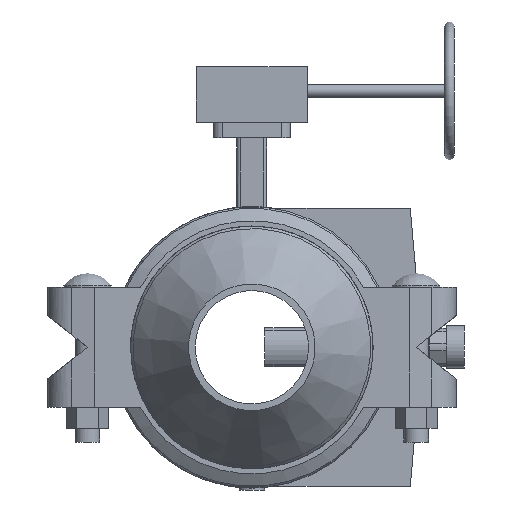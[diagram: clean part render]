
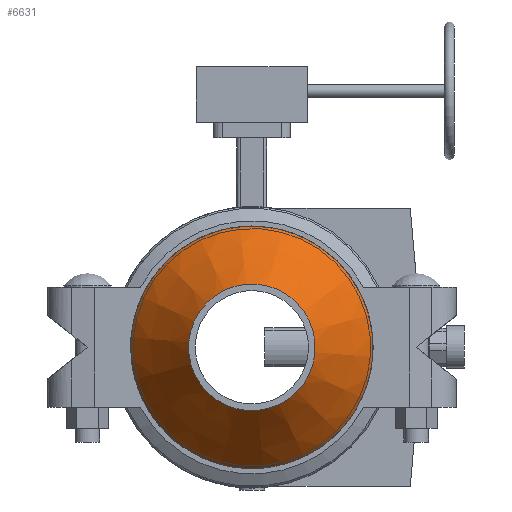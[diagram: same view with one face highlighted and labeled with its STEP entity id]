
A CAD part, front view. The second image highlights one B-rep face of the part: STEP entity #6631.
In plain terms, the highlighted conical face has half-angle 36.87 degrees and reference radius 83.344 mm.
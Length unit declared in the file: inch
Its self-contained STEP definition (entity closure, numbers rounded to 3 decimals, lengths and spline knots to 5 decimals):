
#168=CONICAL_SURFACE('',#7197,3.28125,0.644);
#183=LINE('',#10065,#674);
#674=VECTOR('',#8013,3.28125);
#1355=FACE_OUTER_BOUND('',#1722,.T.);
#1722=EDGE_LOOP('',(#4155,#4156,#4157,#4158,#4159,#4160));
#2158=CIRCLE('',#7195,4.3125);
#2159=CIRCLE('',#7196,4.3125);
#2160=CIRCLE('',#7198,2.25);
#2161=CIRCLE('',#7199,2.25);
#2538=VERTEX_POINT('',#10055);
#2539=VERTEX_POINT('',#10056);
#2540=VERTEX_POINT('',#10061);
#2541=VERTEX_POINT('',#10062);
#3184=EDGE_CURVE('',#2538,#2539,#2158,.T.);
#3185=EDGE_CURVE('',#2539,#2538,#2159,.T.);
#3187=EDGE_CURVE('',#2540,#2541,#2160,.T.);
#3188=EDGE_CURVE('',#2541,#2540,#2161,.T.);
#3189=EDGE_CURVE('',#2541,#2539,#183,.T.);
#4155=ORIENTED_EDGE('',*,*,#3187,.F.);
#4156=ORIENTED_EDGE('',*,*,#3188,.F.);
#4157=ORIENTED_EDGE('',*,*,#3189,.T.);
#4158=ORIENTED_EDGE('',*,*,#3185,.T.);
#4159=ORIENTED_EDGE('',*,*,#3184,.T.);
#4160=ORIENTED_EDGE('',*,*,#3189,.F.);
#6631=ADVANCED_FACE('',(#1355),#168,.T.);
#7195=AXIS2_PLACEMENT_3D('',#10057,#8002,#8003);
#7196=AXIS2_PLACEMENT_3D('',#10058,#8004,#8005);
#7197=AXIS2_PLACEMENT_3D('',#10060,#8007,#8008);
#7198=AXIS2_PLACEMENT_3D('',#10063,#8009,#8010);
#7199=AXIS2_PLACEMENT_3D('',#10064,#8011,#8012);
#8002=DIRECTION('center_axis',(1.,0.,0.));
#8003=DIRECTION('ref_axis',(0.,1.,0.));
#8004=DIRECTION('center_axis',(1.,0.,0.));
#8005=DIRECTION('ref_axis',(0.,1.,0.));
#8007=DIRECTION('center_axis',(-1.,0.,0.));
#8008=DIRECTION('ref_axis',(0.,1.,0.));
#8009=DIRECTION('center_axis',(1.,0.,0.));
#8010=DIRECTION('ref_axis',(0.,1.,0.));
#8011=DIRECTION('center_axis',(1.,0.,0.));
#8012=DIRECTION('ref_axis',(0.,1.,0.));
#8013=DIRECTION('',(-0.8,-0.6,0.));
#10055=CARTESIAN_POINT('',(1.219,4.3125,0.));
#10056=CARTESIAN_POINT('',(1.219,-4.3125,0.));
#10057=CARTESIAN_POINT('Origin',(1.219,0.,0.));
#10058=CARTESIAN_POINT('Origin',(1.219,0.,0.));
#10060=CARTESIAN_POINT('Origin',(2.594,0.,0.));
#10061=CARTESIAN_POINT('',(3.969,2.25,0.));
#10062=CARTESIAN_POINT('',(3.969,-2.25,0.));
#10063=CARTESIAN_POINT('Origin',(3.969,0.,0.));
#10064=CARTESIAN_POINT('Origin',(3.969,0.,0.));
#10065=CARTESIAN_POINT('',(2.594,-3.28125,0.));
